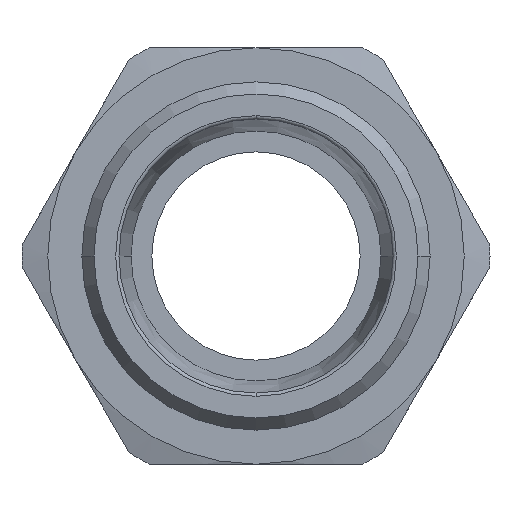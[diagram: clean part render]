
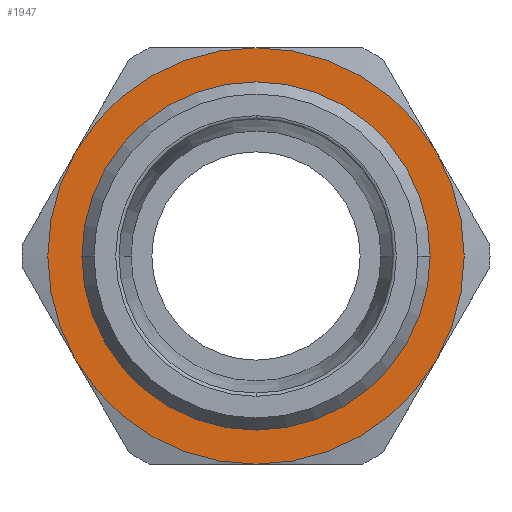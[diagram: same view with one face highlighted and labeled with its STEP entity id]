
A CAD part, left-side view. The second image highlights one B-rep face of the part: STEP entity #1947.
In plain terms, the highlighted planar face has unit normal (-1, 0, 0) as drawn and (0, 0, 1) by its records, which use the part's own axes.
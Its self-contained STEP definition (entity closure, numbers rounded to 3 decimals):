
#857=CARTESIAN_POINT('',(-20.65,0.,7.0));
#858=VERTEX_POINT('',#857);
#884=CARTESIAN_POINT('',(20.65,0.,7.0));
#885=VERTEX_POINT('',#884);
#893=CARTESIAN_POINT('',(0.,0.,7.0));
#894=DIRECTION('',(0.0,0.0,1.0));
#895=DIRECTION('',(-1.0,0.0,0.0));
#896=AXIS2_PLACEMENT_3D('',#893,#894,#895);
#897=CIRCLE('',#896,20.65);
#898=EDGE_CURVE('',#885,#858,#897,.T.);
#1827=CARTESIAN_POINT('',(0.,-20.65,7.));
#1828=VERTEX_POINT('',#1827);
#1829=CARTESIAN_POINT('',(0.,0.,7.0));
#1830=DIRECTION('',(0.0,0.0,1.0));
#1831=DIRECTION('',(-1.0,0.0,0.0));
#1832=AXIS2_PLACEMENT_3D('',#1829,#1830,#1831);
#1833=CIRCLE('',#1832,20.65);
#1834=EDGE_CURVE('',#858,#1828,#1833,.T.);
#1836=CARTESIAN_POINT('',(0.,0.,7.0));
#1837=DIRECTION('',(0.0,0.0,1.0));
#1838=DIRECTION('',(-1.0,0.0,0.0));
#1839=AXIS2_PLACEMENT_3D('',#1836,#1837,#1838);
#1840=CIRCLE('',#1839,20.65);
#1841=EDGE_CURVE('',#1828,#885,#1840,.T.);
#1881=CARTESIAN_POINT('',(0.0,0.,7.0));
#1882=DIRECTION('',(0.0,0.0,1.0));
#1883=DIRECTION('',(1.0,0.0,0.0));
#1884=AXIS2_PLACEMENT_3D('',#1881,#1882,#1883);
#1885=PLANE('',#1884);
#1886=CARTESIAN_POINT('',(12.5,-21.651,7.));
#1887=VERTEX_POINT('',#1886);
#1888=CARTESIAN_POINT('',(25.0,0.0,7.));
#1889=VERTEX_POINT('',#1888);
#1890=CARTESIAN_POINT('',(0.,0.0,7.0));
#1891=DIRECTION('',(0.0,0.0,1.0));
#1892=DIRECTION('',(1.0,0.0,0.0));
#1893=AXIS2_PLACEMENT_3D('',#1890,#1891,#1892);
#1894=CIRCLE('',#1893,25.);
#1895=EDGE_CURVE('',#1887,#1889,#1894,.T.);
#1896=ORIENTED_EDGE('',*,*,#1895,.T.);
#1897=CARTESIAN_POINT('',(12.5,21.651,7.));
#1898=VERTEX_POINT('',#1897);
#1899=CARTESIAN_POINT('',(0.,0.0,7.0));
#1900=DIRECTION('',(0.0,0.0,1.0));
#1901=DIRECTION('',(1.0,0.0,0.0));
#1902=AXIS2_PLACEMENT_3D('',#1899,#1900,#1901);
#1903=CIRCLE('',#1902,25.);
#1904=EDGE_CURVE('',#1889,#1898,#1903,.T.);
#1905=ORIENTED_EDGE('',*,*,#1904,.T.);
#1906=CARTESIAN_POINT('',(-12.5,21.651,7.));
#1907=VERTEX_POINT('',#1906);
#1908=CARTESIAN_POINT('',(0.,0.0,7.0));
#1909=DIRECTION('',(0.0,0.0,1.0));
#1910=DIRECTION('',(1.0,0.0,0.0));
#1911=AXIS2_PLACEMENT_3D('',#1908,#1909,#1910);
#1912=CIRCLE('',#1911,25.);
#1913=EDGE_CURVE('',#1898,#1907,#1912,.T.);
#1914=ORIENTED_EDGE('',*,*,#1913,.T.);
#1915=CARTESIAN_POINT('',(-25.0,0.,7.));
#1916=VERTEX_POINT('',#1915);
#1917=CARTESIAN_POINT('',(0.,0.0,7.0));
#1918=DIRECTION('',(0.0,0.0,1.0));
#1919=DIRECTION('',(1.0,0.0,0.0));
#1920=AXIS2_PLACEMENT_3D('',#1917,#1918,#1919);
#1921=CIRCLE('',#1920,25.);
#1922=EDGE_CURVE('',#1907,#1916,#1921,.T.);
#1923=ORIENTED_EDGE('',*,*,#1922,.T.);
#1924=CARTESIAN_POINT('',(-12.5,-21.651,7.));
#1925=VERTEX_POINT('',#1924);
#1926=CARTESIAN_POINT('',(0.,0.0,7.0));
#1927=DIRECTION('',(0.0,0.0,1.0));
#1928=DIRECTION('',(1.0,0.0,0.0));
#1929=AXIS2_PLACEMENT_3D('',#1926,#1927,#1928);
#1930=CIRCLE('',#1929,25.);
#1931=EDGE_CURVE('',#1916,#1925,#1930,.T.);
#1932=ORIENTED_EDGE('',*,*,#1931,.T.);
#1933=CARTESIAN_POINT('',(0.,0.0,7.0));
#1934=DIRECTION('',(0.0,0.0,1.0));
#1935=DIRECTION('',(1.0,0.0,0.0));
#1936=AXIS2_PLACEMENT_3D('',#1933,#1934,#1935);
#1937=CIRCLE('',#1936,25.);
#1938=EDGE_CURVE('',#1925,#1887,#1937,.T.);
#1939=ORIENTED_EDGE('',*,*,#1938,.T.);
#1940=EDGE_LOOP('',(#1896,#1905,#1914,#1923,#1932,#1939));
#1941=FACE_OUTER_BOUND('',#1940,.T.);
#1942=ORIENTED_EDGE('',*,*,#1841,.F.);
#1943=ORIENTED_EDGE('',*,*,#1834,.F.);
#1944=ORIENTED_EDGE('',*,*,#898,.F.);
#1945=EDGE_LOOP('',(#1942,#1943,#1944));
#1946=FACE_BOUND('',#1945,.T.);
#1947=ADVANCED_FACE('',(#1941,#1946),#1885,.T.);
